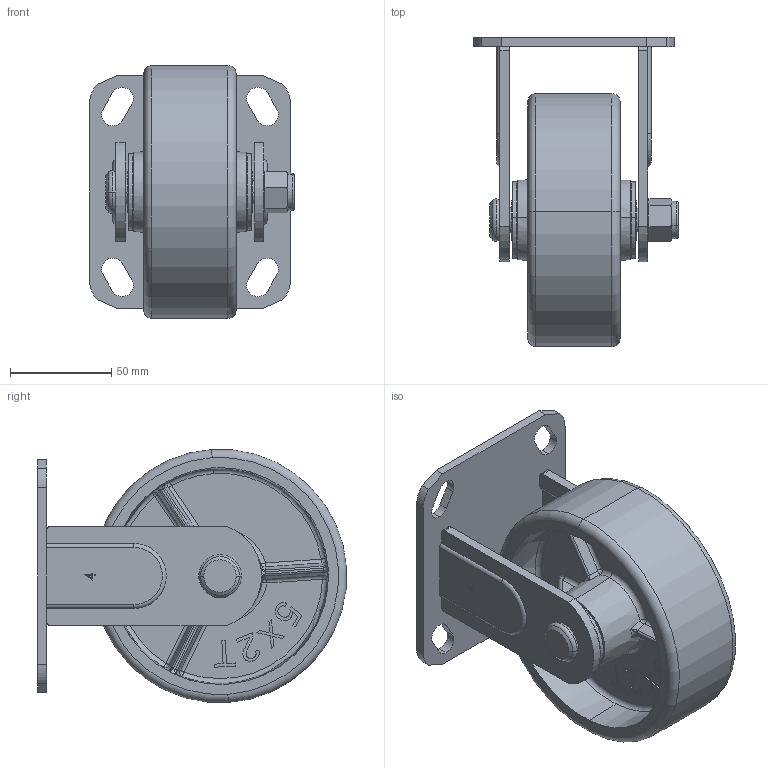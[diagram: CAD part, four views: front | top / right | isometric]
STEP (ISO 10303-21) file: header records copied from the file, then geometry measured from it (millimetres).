
FILE_DESCRIPTION (( 'STEP AP203' ), '1' );
FILE_NAME ('4111205001061-7.STEP', '2025-07-21T07:03:44', ( '' ), ( '' ), 'SwSTEP 2.0', 'SolidWorks 2019', '' );
FILE_SCHEMA (( 'CONFIG_CONTROL_DESIGN' ));
Length unit declared in the file: millimetre
Products named in the file (1): 4111205001061-7
Bounding box: 101 x 152.36 x 124.72 mm (x, y, z)
Volume: 359702 mm3; surface area: 115059.1 mm2
Topology: 5 solids, 6 shells, 473 faces, 1207 edges, 747 vertices
Faces by surface type: plane 153, bspline 128, cylinder 111, torus 53, cone 26, sphere 2
Entity records: 18993 total; most frequent: CARTESIAN_POINT 8366, ORIENTED_EDGE 2366, DIRECTION 1992, EDGE_CURVE 1183, AXIS2_PLACEMENT_3D 765, VERTEX_POINT 747, EDGE_LOOP 514, ADVANCED_FACE 473
